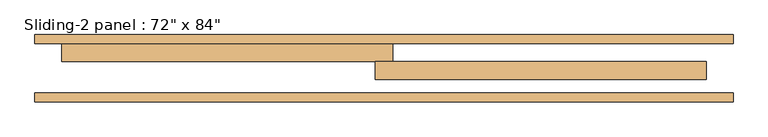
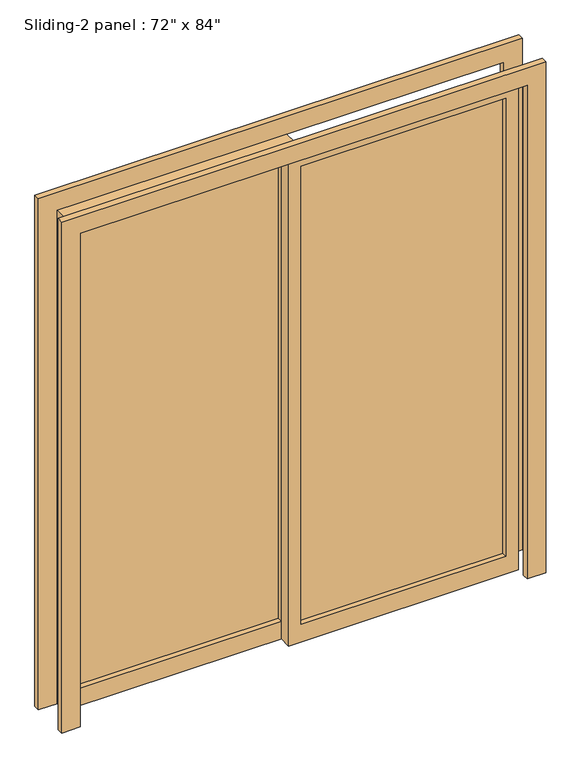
"""IFC4 building model written with IfcOpenShell, lengths in millimetres: door geometry."""

from ifc_helpers import new_model, si_unit, frame, origin, place, context, project, spatial, polyline, outline, extrude, source, transform, mapped, element, save


def door_a33c1234(model_context):
    return source(origin(), model_context, "Body", "SweptSolid", [
        extrude(outline(polyline([(25.4, 123.825), (863.6, 123.825), (863.6, 117.475), (25.4, 117.475), (25.4, 123.825)])), frame((0.0, 0.0, 76.2), z_axis=(0.0, 0.0, 1.0), x_axis=(1.0, 0.0, 0.0)), (0.0, 0.0, 1.0), 1981.2),
        extrude(outline(polyline([(2133.6, -25.4), (0.0, -25.4), (0.0, 914.4), (2133.6, 914.4), (2133.6, -25.4)]), holes=[polyline([(2057.4, 25.4), (2057.4, 863.6), (76.2, 863.6), (76.2, 25.4), (2057.4, 25.4)])]), frame((0.0, 95.25, 0.0), z_axis=(0.0, 1.0, 0.0), x_axis=(0.0, 0.0, 1.0)), (0.0, 0.0, 1.0), 50.8),
        extrude(outline(polyline([(-863.6, 174.625), (-25.4, 174.625), (-25.4, 168.275), (-863.6, 168.275), (-863.6, 174.625)])), frame((0.0, 0.0, 76.2), z_axis=(0.0, 0.0, 1.0), x_axis=(1.0, 0.0, 0.0)), (0.0, 0.0, 1.0), 1981.2),
        extrude(outline(polyline([(2133.6, 25.4), (2133.6, -914.4), (0.0, -914.4), (0.0, 25.4), (2133.6, 25.4)]), holes=[polyline([(2057.4, -25.4), (76.2, -25.4), (76.2, -863.6), (2057.4, -863.6), (2057.4, -25.4)])]), frame((0.0, 146.05, 0.0), z_axis=(0.0, 1.0, 0.0), x_axis=(0.0, 0.0, 1.0)), (0.0, 0.0, 1.0), 50.8),
        extrude(outline(polyline([(0.0, -990.6), (0.0, -914.4), (2133.6, -914.4), (2133.6, 914.4), (0.0, 914.4), (0.0, 990.6), (2209.8, 990.6), (2209.8, -990.6), (0.0, -990.6)])), frame((0.0, 31.75, 0.0), z_axis=(0.0, 1.0, 0.0), x_axis=(0.0, 0.0, 1.0)), (0.0, 0.0, 1.0), 25.4),
        extrude(outline(polyline([(0.0, 990.6), (2209.8, 990.6), (2209.8, -990.6), (0.0, -990.6), (0.0, -914.4), (2133.6, -914.4), (2133.6, 914.4), (0.0, 914.4), (0.0, 990.6)])), frame((0.0, 196.85, 0.0), z_axis=(0.0, 1.0, 0.0), x_axis=(0.0, 0.0, 1.0)), (0.0, 0.0, 1.0), 25.4),
    ])


if __name__ == "__main__":
    model = new_model("IFC4")
    model_context = context("Model", 3, world=origin())
    ifc_project = project(units=[si_unit("LENGTHUNIT", "METRE", prefix="MILLI")], contexts=[model_context])
    site = spatial("IfcSite", under=ifc_project)
    building = spatial("IfcBuilding", under=site)
    placement = place(None, origin())
    door_shape = door_a33c1234(model_context)
    element("IfcDoor", 1, ObjectType="Sliding-2 panel : 72\" x 84\"", at=placement, inside=building, context=model_context, shape_type="MappedRepresentation", body=[
        mapped(door_shape, transform((0.0, 0.0, 0.0), x_axis=(1.0, 0.0, 0.0), y_axis=(0.0, 1.0, 0.0), z_axis=(0.0, 0.0, 1.0))),
    ])
    save(model, "model.ifc")
